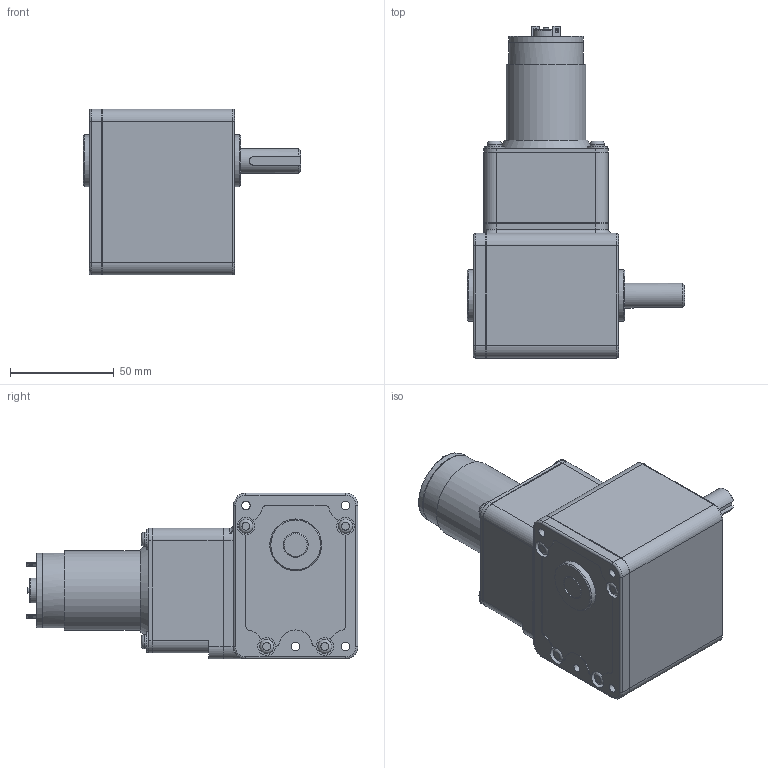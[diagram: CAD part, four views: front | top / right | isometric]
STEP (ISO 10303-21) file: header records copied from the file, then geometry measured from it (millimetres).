
FILE_DESCRIPTION((''),'2;1');
FILE_NAME('C:\Documents and Settings\SSEGAWA\デスクトップ\TP-3850A-SWL.STP','2013-07-29T15:14:07',('SSEGAWA'),(''),'Autodesk Inventor 2010','Autodesk Inventor 2010','');
FILE_SCHEMA(('CONFIG_CONTROL_DESIGN'));
Length unit declared in the file: millimetre
Products named in the file (1): tp_3850a_swl_Shrinkwrap_1
Bounding box: 105 x 160 x 80 mm (x, y, z)
Volume: 543279.4 mm3; surface area: 56684.6 mm2
Topology: 1 solids, 10 shells, 273 faces, 640 edges, 415 vertices
Faces by surface type: plane 109, cylinder 96, bspline 43, torus 20, cone 5
Full cylindrical faces by diameter (mm): 2.5 x1, 3 x1, 4.5 x1, 6.8 x8, 7 x3, 8.5 x4, 9.8 x4, 12 x3, 18 x2, 25 x1, 35.6 x1, 36 x2, 54 x1
Entity records: 8118 total; most frequent: CARTESIAN_POINT 1881, DIRECTION 1273, ORIENTED_EDGE 1094, EDGE_CURVE 547, AXIS2_PLACEMENT_3D 501, VERTEX_POINT 390, EDGE_LOOP 387, STYLED_ITEM 274
